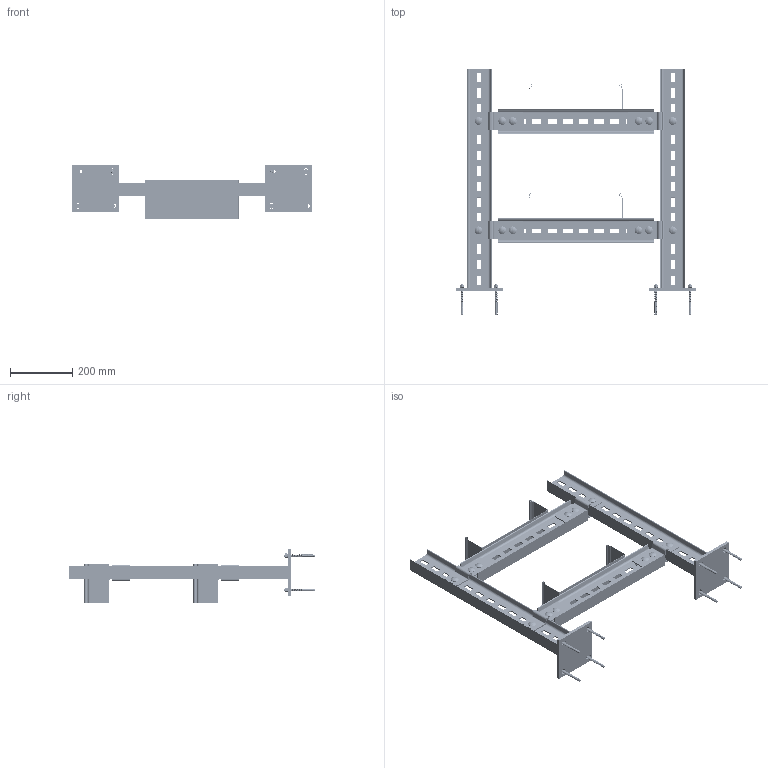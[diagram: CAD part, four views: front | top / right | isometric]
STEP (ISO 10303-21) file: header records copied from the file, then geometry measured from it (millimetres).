
FILE_DESCRIPTION (( 'STEP AP214' ), '1' );
FILE_NAME ('41 ﾑﾏﾑ(ﾂﾍ)+ﾑﾏﾒ(ﾂﾍ)+ﾊﾏﾑ(ﾂﾍ)+ﾓﾑﾑ(ﾂﾍ).STEP', '2016-09-20T10:40:12', ( '' ), ( '' ), 'SwSTEP 2.0', 'SolidWorks 2016', '' );
FILE_SCHEMA (( 'AUTOMOTIVE_DESIGN' ));
Length unit declared in the file: millimetre
Products named in the file (15): 栺歑緪薤 鳱黼譇厴闉膼蜦  鳧耪譇; Ëîòîê Îáðàç_300å80; 355403 ﾓﾑﾑ(ﾂﾍ)胯; hex nut gradec_iso_ISO - 4034 - M10 - N; Áîëò DIN 603_Œ10; Îïîðíàÿ ïåòëÿ; 355605-355630 ÑÏÑ(ÂÍ)ãö_‘â®©ª  á¢ à­ ï 700; 355505-355560 ﾑﾏﾒ(ﾂﾍ)胯_鯛ｮｩｪ IPN80x700; Ïÿòêà ñòîéêè; 355505-355560 ﾑﾏﾒ(ﾂﾍ)胯_鯛ｮｩｪ IPN80x500; 41 ﾑﾏﾑ(ﾂﾍ)+ﾑﾏﾒ(ﾂﾍ)+ﾊﾏﾑ(ﾂﾍ)+ﾓﾑﾑ(ﾂﾍ); 062089 ﾀﾁﾄ8100; hex nut gradec_iso_ISO - 4034 - M8 - N; 068089 ﾘﾌ8_丐ｩ｡ A.8 ヮ葬 11371-78; 抔鴈 鳧耪譇
Assembly tree (33 placements, depth 3):
  41 ﾑﾏﾑ(ﾂﾍ)+ﾑﾏﾒ(ﾂﾍ)+ﾊﾏﾑ(ﾂﾍ)+ﾓﾑﾑ(ﾂﾍ)
    355505-355560 ﾑﾏﾒ(ﾂﾍ)胯_鯛ｮｩｪ IPN80x500  x2
    355605-355630 ÑÏÑ(ÂÍ)ãö_‘â®©ª  á¢ à­ ï 700  x2
      Ïÿòêà ñòîéêè
      355505-355560 ﾑﾏﾒ(ﾂﾍ)胯_鯛ｮｩｪ IPN80x700
    355403 ﾓﾑﾑ(ﾂﾍ)胯  x4
      Îïîðíàÿ ïåòëÿ
      Áîëò DIN 603_Œ10
      hex nut gradec_iso_ISO - 4034 - M10 - N
    Ëîòîê Îáðàç_300å80  x2
    062089 ﾀﾁﾄ8100  x8
      栺歑緪薤 鳱黼譇厴闉膼蜦  鳧耪譇
      抔鴈 鳧耪譇
      068089 ﾘﾌ8_丐ｩ｡ A.8 ヮ葬 11371-78
      hex nut gradec_iso_ISO - 4034 - M8 - N
Bounding box: 770 x 784.71 x 170.1 mm (x, y, z)
Volume: 2404783.7 mm3; surface area: 1321940.7 mm2
Topology: 80 solids, 80 shells, 5088 faces, 12336 edges, 7492 vertices
Faces by surface type: cylinder 1600, plane 1432, bspline 928, torus 608, cone 448, sphere 72
Entity records: 39121 total; most frequent: CARTESIAN_POINT 23793, ORIENTED_EDGE 3226, DIRECTION 2818, EDGE_CURVE 1613, VERTEX_POINT 1002, AXIS2_PLACEMENT_3D 995, VECTOR 828, LINE 828
